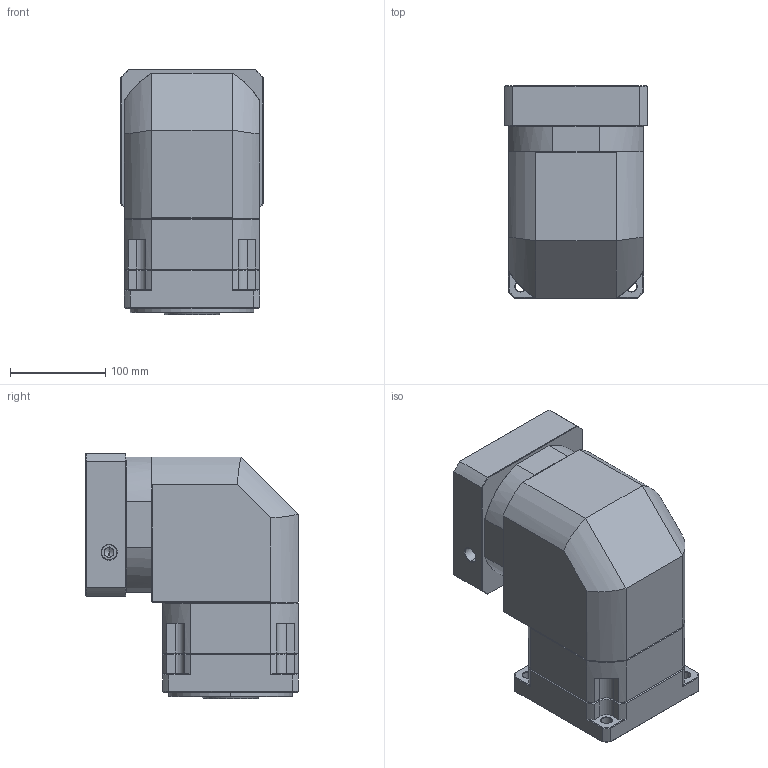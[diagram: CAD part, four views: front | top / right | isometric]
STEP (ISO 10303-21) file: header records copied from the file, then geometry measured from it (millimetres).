
FILE_DESCRIPTION (( 'STEP AP214' ), '1' );
FILE_NAME ('ZBR142A-K35-L1-P2-22-110-145-M8.step', '2023-09-02T07:14:36', ( '' ), ( '' ), 'SwSTEP 2.0', 'SolidWorks 2016', '' );
FILE_SCHEMA (( 'AUTOMOTIVE_DESIGN' ));
Length unit declared in the file: millimetre
Products named in the file (1): ZBR142A-K35-L1-P2-22-110-145-M8
Bounding box: 150 x 223 x 257.7 mm (x, y, z)
Volume: 5323127.6 mm3; surface area: 385515.2 mm2
Topology: 6 solids, 6 shells, 2279 faces, 6004 edges, 3831 vertices
Faces by surface type: plane 1113, cylinder 414, bspline 406, cone 326, torus 20
Entity records: 124958 total; most frequent: CARTESIAN_POINT 46978, ORIENTED_EDGE 11952, DIRECTION 9401, EDGE_CURVE 5976, LINE 3871, VECTOR 3871, VERTEX_POINT 3831, AXIS2_PLACEMENT_3D 2765
